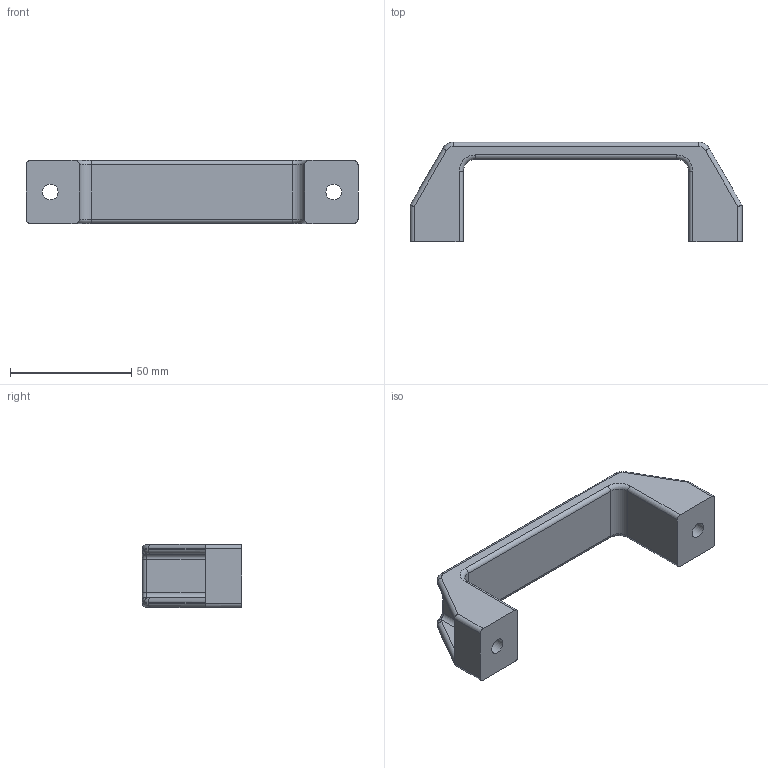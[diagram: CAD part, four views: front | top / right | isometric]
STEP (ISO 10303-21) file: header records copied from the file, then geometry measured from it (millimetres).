
FILE_DESCRIPTION (( 'STEP AP214' ), '1' );
FILE_NAME ('F31119.step', '2024-12-03T16:17:18', ( '' ), ( '' ), 'SwSTEP 2.0', 'SolidWorks 2023', '' );
FILE_SCHEMA (( 'AUTOMOTIVE_DESIGN' ));
Length unit declared in the file: millimetre
Products named in the file (1): F31119
Bounding box: 137 x 41 x 26 mm (x, y, z)
Volume: 41946.9 mm3; surface area: 15860.1 mm2
Topology: 1 solids, 1 shells, 80 faces, 188 edges, 112 vertices
Faces by surface type: cylinder 36, plane 24, torus 16, bspline 4
Full cylindrical faces by diameter (mm): 6.5 x2, 10.5 x2
Entity records: 2415 total; most frequent: CARTESIAN_POINT 561, DIRECTION 406, ORIENTED_EDGE 368, EDGE_CURVE 184, AXIS2_PLACEMENT_3D 161, VERTEX_POINT 112, EDGE_LOOP 90, VECTOR 84
